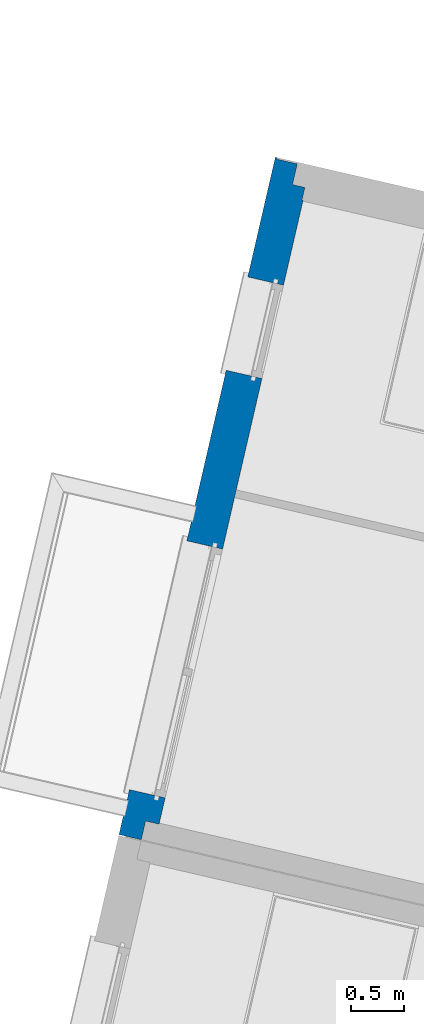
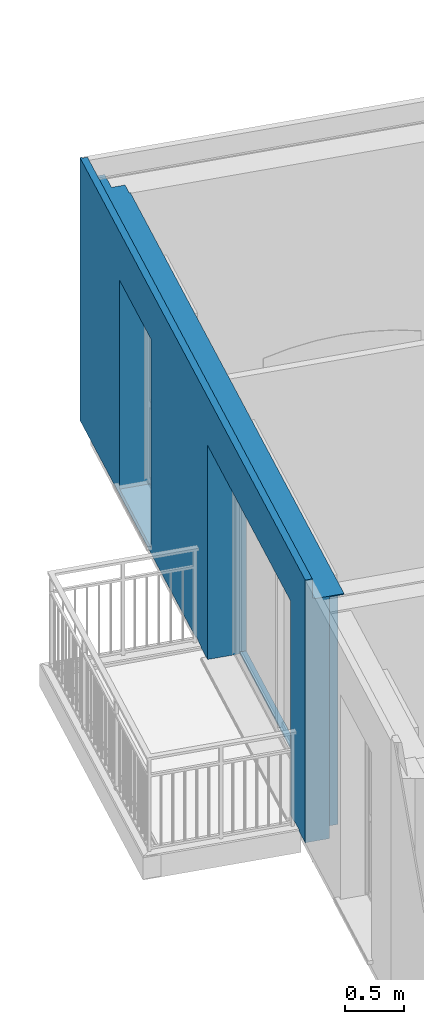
# One storey, part 13 of 62: 1 wall, 2 openings.
"""IFC2X3 building model written with IfcOpenShell, lengths in metres."""

from ifc_helpers import new_model, entity, si_unit, converted_unit, derived_unit, money_unit, direction, frame, origin_with_axes, place, context, subcontext, project, spatial, faceted_brep, material, material_list, type_object, element, save


model = new_model("IFC2X3")

# Units and contexts
model_context = context("Model", 3, precision=1e-05, world=origin_with_axes(), true_north=direction((0.0, 1.0)))
body_context = subcontext(model_context, "Body", "Model", "MODEL_VIEW")
ifc_project = project(units=[si_unit("LENGTHUNIT", "METRE"), si_unit("AREAUNIT", "SQUARE_METRE"), si_unit("VOLUMEUNIT", "CUBIC_METRE"), converted_unit("PLANEANGLEUNIT", "DEGREE", entity("IfcPlaneAngleMeasure", 0.0174532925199), si_unit("PLANEANGLEUNIT", "RADIAN"), dimensions=[0, 0, 0, 0, 0, 0, 0]), si_unit("SOLIDANGLEUNIT", "STERADIAN"), money_unit("EUR"), converted_unit("TIMEUNIT", "Year", entity("IfcTimeMeasure", 31556926.0), si_unit("TIMEUNIT", "SECOND"), dimensions=[0, 0, 1, 0, 0, 0, 0]), si_unit("MASSUNIT", "GRAM", prefix="KILO"), si_unit("THERMODYNAMICTEMPERATUREUNIT", "DEGREE_CELSIUS"), si_unit("LUMINOUSINTENSITYUNIT", "LUMEN"), si_unit("ENERGYUNIT", "JOULE", prefix="MEGA"), derived_unit("THERMALCONDUCTANCEUNIT", [(si_unit("POWERUNIT", "WATT"), 1), (si_unit("LENGTHUNIT", "METRE"), -1), (si_unit("THERMODYNAMICTEMPERATUREUNIT", "KELVIN"), -1)]), derived_unit("SPECIFICHEATCAPACITYUNIT", [(si_unit("ENERGYUNIT", "JOULE"), 1), (si_unit("MASSUNIT", "GRAM", prefix="KILO"), -1), (si_unit("THERMODYNAMICTEMPERATUREUNIT", "KELVIN"), -1)]), derived_unit("MASSDENSITYUNIT", [(si_unit("MASSUNIT", "GRAM", prefix="KILO"), 1), (si_unit("VOLUMEUNIT", "CUBIC_METRE"), -1)])], contexts=[model_context])

# Site, building, storey
site_placement = place(None, origin_with_axes())
site = spatial("IfcSite", under=ifc_project, at=site_placement, Name="Site", CompositionType="ELEMENT")
building_placement = place(site_placement, origin_with_axes())
building = spatial("IfcBuilding", under=site, at=building_placement, Name="Bâtiment", CompositionType="ELEMENT")
storey_placement = place(building_placement, frame((0.0, 0.0, 8.16), z_axis=(0.0, 0.0, 1.0), x_axis=(1.0, 0.0, 0.0)))
storey = spatial("IfcBuildingStorey", under=building, at=storey_placement, Name="R+3", CompositionType="ELEMENT", Elevation=8.16)

# Wall, openings
ifc_material_1 = material(Name="Finition int - Plaque de plâtre")
ifc_material_2 = material(Name="Isolation - Polystyrène extrudé")
ifc_material_3 = material(Name="Bloc ELITHERM")
ifc_material_4 = material(Name="Mortier")
ifc_material_5 = material(Name="Béton cellulaire")
ifc_material_6 = material(Name="Finition ext - Crépis")
ifc_material_list = material_list([ifc_material_1, ifc_material_2, ifc_material_3, ifc_material_4, ifc_material_5, ifc_material_6])
wall_type = type_object("IfcWallType", Name="Mur ALKERN + planelle 21 345 x 2720", PredefinedType="USERDEFINED")
wall_placement = place(storey_placement, frame((-15.4613545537, 10.3708066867, 0.0), z_axis=(0.0, 0.0, 1.0), x_axis=(-0.224876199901, -0.974387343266, 0.0)))
wall = element("IfcWall", 1, at=wall_placement, inside=storey, type_object=wall_type, material=ifc_material_list, Name="Mue bloc ALKERN isolé", ObjectType="SOLIDWALL", context=body_context, shape_type="Brep", body=[
    faceted_brep([(6.35486443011, 0.35999998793, 0.0), (0.335000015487, 0.35999998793, 0.0), (0.335000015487, 0.359999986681, 2.51), (6.53486443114, 0.359999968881, 2.51000000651), (6.53486443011, 0.359999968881, 2.5), (6.35486443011, 0.35999998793, 2.5), (2.05561974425, 0.35999998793, 2.22), (2.05561974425, 0.359999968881, 2.4), (1.15561974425, 0.359999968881, 2.4), (1.15561974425, 0.35999998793, 2.22), (1.15561974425, 0.35999998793, 0.12), (2.05561974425, 0.35999998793, 0.12), (6.10090346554, 0.35999998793, 2.22), (6.10090346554, 0.359999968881, 2.4), (3.70090346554, 0.359999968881, 2.4), (3.70090346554, 0.35999998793, 2.22), (3.70090346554, 0.35999998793, 0.02), (6.10090346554, 0.35999998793, 0.02), (6.35486443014, 0.350000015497, 0.0), (0.335000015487, 0.350000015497, 0.0), (0.335000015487, 0.350000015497, 2.51), (6.53486443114, 0.350000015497, 2.51000000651), (6.53486443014, 0.350000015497, 2.5), (6.35486443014, 0.350000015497, 2.5), (2.05561974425, 0.350000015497, 2.22), (2.05561974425, 0.350000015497, 2.4), (2.05561974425, 0.350000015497, 0.12), (1.15561974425, 0.350000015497, 2.4), (1.15561974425, 0.350000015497, 2.22), (1.15561974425, 0.350000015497, 0.12), (6.10090346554, 0.350000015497, 2.22), (6.10090346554, 0.350000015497, 2.4), (6.10090346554, 0.350000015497, 0.02), (3.70090346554, 0.350000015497, 2.4), (3.70090346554, 0.350000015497, 2.22), (3.70090346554, 0.350000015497, 0.02)], [[[0, 1, 2, 3, 4, 5], [6, 7, 8, 9, 10, 11], [12, 13, 14, 15, 16, 17]], [[18, 19, 1, 0]], [[19, 20, 2, 1]], [[3, 2, 20, 21]], [[21, 22, 4, 3]], [[23, 5, 4, 22]], [[18, 0, 5, 23]], [[24, 25, 7, 6, 11, 26]], [[25, 27, 8, 7]], [[9, 8, 27, 28, 29, 10]], [[26, 11, 10, 29]], [[30, 31, 13, 12, 17, 32]], [[14, 13, 31, 33]], [[15, 14, 33, 34, 35, 16]], [[16, 35, 32, 17]], [[21, 20, 19, 18, 23, 22], [25, 24, 26, 29, 28, 27], [31, 30, 32, 35, 34, 33]]]),
    faceted_brep([(3.70090346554, 0.230000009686, 0.02), (3.70090346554, 0.230000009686, 0.0), (3.70090346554, 0.301, 0.0), (3.70090346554, 0.301, 0.02), (3.70090346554, 0.350000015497, 0.02), (3.70090346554, 0.350000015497, 2.22), (3.70090346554, 0.350000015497, 2.4), (3.70090346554, 0.23, 2.4), (3.70090346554, 0.23, 2.22), (6.10090346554, 0.23, 2.4), (6.10090346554, 0.23, 2.22), (6.10090346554, 0.230000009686, 0.02), (6.10090346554, 0.230000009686, 0.0), (6.35486443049, 0.230000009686, 0.0), (6.35486443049, 0.230000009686, 2.5), (6.53486443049, 0.230000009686, 2.5), (6.53486443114, 0.230000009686, 2.51000000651), (0.214999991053, 0.230000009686, 2.50999999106), (0.214999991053, 0.230000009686, 0.0), (2.05561974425, 0.23, 2.4), (2.05561974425, 0.23, 2.22), (2.05561974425, 0.230000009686, 0.12), (2.05561974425, 0.230000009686, 0.06), (1.15561974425, 0.230000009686, 0.06), (1.15561974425, 0.230000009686, 0.12), (1.15561974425, 0.23, 2.22), (1.15561974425, 0.23, 2.4), (0.214999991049, 0.350000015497, 0.0), (6.35486443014, 0.350000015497, 0.0), (6.10090346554, 0.301, 0.0), (6.10090346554, 0.301, 0.02), (6.10090346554, 0.350000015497, 0.02), (0.214999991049, 0.350000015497, 2.50999999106), (6.53486443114, 0.350000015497, 2.51000000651), (6.53486443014, 0.350000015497, 2.5), (6.35486443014, 0.350000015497, 2.5), (1.15561974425, 0.350000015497, 2.22), (1.15561974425, 0.350000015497, 0.12), (2.05561974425, 0.350000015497, 0.12), (2.05561974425, 0.350000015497, 2.22), (2.05561974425, 0.350000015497, 2.4), (1.15561974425, 0.350000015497, 2.4), (6.10090346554, 0.350000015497, 2.22), (6.10090346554, 0.350000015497, 2.4), (2.05561974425, 0.301, 0.12), (2.05561974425, 0.301, 0.06), (1.15561974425, 0.301, 0.06), (1.15561974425, 0.301, 0.12)], [[[0, 1, 2, 3, 4, 5, 6, 7, 8]], [[1, 0, 8, 7, 9, 10, 11, 12, 13, 14, 15, 16, 17, 18], [19, 20, 21, 22, 23, 24, 25, 26]], [[2, 1, 18, 27, 28, 13, 12, 29]], [[30, 3, 2, 29]], [[3, 30, 31, 4]], [[28, 27, 32, 33, 34, 35], [36, 37, 38, 39, 40, 41], [5, 4, 31, 42, 43, 6]], [[43, 9, 7, 6]], [[30, 29, 12, 11, 10, 9, 43, 42, 31]], [[13, 28, 35, 14]], [[14, 35, 34, 15]], [[16, 15, 34, 33]], [[33, 32, 17, 16]], [[18, 17, 32, 27]], [[40, 39, 38, 44, 45, 22, 21, 20, 19]], [[23, 22, 45, 46]], [[41, 26, 25, 24, 23, 46, 47, 37, 36]], [[40, 19, 26, 41]], [[47, 44, 38, 37]], [[44, 47, 46, 45]]]),
    faceted_brep([(3.70090346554, 0.229999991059, 0.02), (3.70090346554, 0.229999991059, 0.0), (0.0149999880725, 0.229999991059, 0.0), (0.0149999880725, 0.229999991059, 2.50999999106), (6.53486443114, 0.229999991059, 2.51000000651), (6.53486443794, 0.229999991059, 2.5), (6.53486443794, 0.229999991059, 0.0), (6.10090346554, 0.229999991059, 0.0), (6.10090346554, 0.229999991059, 0.02), (6.10090346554, 0.229999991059, 2.22), (3.70090346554, 0.229999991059, 2.22), (2.05561974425, 0.229999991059, 0.06), (2.05561974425, 0.229999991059, 0.12), (2.05561974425, 0.229999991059, 2.22), (1.15561974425, 0.229999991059, 2.22), (1.15561974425, 0.229999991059, 0.12), (1.15561974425, 0.229999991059, 0.06), (3.70090346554, 0.03, 0.02), (3.70090346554, 0.03, 0.0), (0.0149999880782, 0.03, 0.0), (0.0149999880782, 0.03, 2.50999999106), (0.0149999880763, 0.0979999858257, 2.50999999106), (6.53486443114, 0.0979999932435, 2.51000000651), (6.53486443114, 0.03, 2.50999999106), (6.53486443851, 0.03, 2.5), (6.53486443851, 0.03, 0.0), (6.10090346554, 0.03, 0.0), (6.10090346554, 0.03, 0.02), (6.10090346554, 0.03, 2.22), (3.70090346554, 0.03, 2.22), (2.05561974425, 0.03, 0.06), (2.05561974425, 0.03, 0.12), (2.05561974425, 0.03, 2.22), (1.15561974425, 0.03, 2.22), (1.15561974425, 0.03, 0.12), (1.15561974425, 0.03, 0.06)], [[[0, 1, 2, 3, 4, 5, 6, 7, 8, 9, 10], [11, 12, 13, 14, 15, 16]], [[1, 0, 17, 18]], [[1, 18, 19, 2]], [[19, 20, 21, 3, 2]], [[3, 21, 22, 4]], [[4, 22, 23, 24, 5]], [[25, 6, 5, 24]], [[26, 7, 6, 25]], [[27, 8, 7, 26]], [[8, 27, 28, 9]], [[9, 28, 29, 10]], [[17, 0, 10, 29]], [[11, 30, 31, 12]], [[32, 13, 12, 31]], [[33, 14, 13, 32]], [[14, 33, 34, 15]], [[34, 35, 16, 15]], [[35, 30, 11, 16]], [[18, 17, 29, 28, 27, 26, 25, 24, 23, 20, 19], [35, 34, 33, 32, 31, 30]], [[21, 20, 23, 22]]]),
    faceted_brep([(0.0149999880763, 0.0979999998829, 2.50999999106), (0.0149999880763, 0.0979999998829, 2.51999999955), (6.53486443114, 0.0979999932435, 2.51999998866), (6.53486443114, 0.0979999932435, 2.51000000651), (0.0149999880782, 0.03, 2.51999999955), (0.0149999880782, 0.03, 2.50999999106), (6.53486443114, 0.03, 2.52), (6.53486443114, 0.03, 2.51)], [[[0, 1, 2, 3]], [[4, 1, 0, 5]], [[1, 4, 6, 2]], [[7, 3, 2, 6]], [[5, 0, 3, 7]], [[4, 5, 7, 6]]]),
    faceted_brep([(0.0149999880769, 0.0779999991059, 2.51999999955), (0.0149999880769, 0.0779999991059, 2.72), (6.53486443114, 0.0779999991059, 2.72000000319), (6.53486443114, 0.0779999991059, 2.51999999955), (0.0149999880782, 0.03, 2.72), (0.0149999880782, 0.03, 2.51999999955), (6.53486443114, 0.03, 2.71999999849), (6.53486443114, 0.03, 2.51999999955)], [[[0, 1, 2, 3]], [[4, 1, 0, 5]], [[1, 4, 6, 2]], [[7, 3, 2, 6]], [[5, 0, 3, 7]], [[4, 5, 7, 6]]]),
    faceted_brep([(3.70090346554, 0.0299999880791, 0.02), (3.70090346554, 0.0300000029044, 0.0), (3.51872899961, 0.0300000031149, 0.0), (3.50874847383, 0.0300000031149, 0.0106237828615), (3.3687095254, 0.0300000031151, 0.0193762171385), (3.35872899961, 0.0300000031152, 0.01), (3.35872899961, 0.0300000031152, 0.0), (1.19200898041e-08, 0.0299999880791, 0.0), (1.19200898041e-08, 0.0299999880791, 2.72), (6.53486443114, 0.0299999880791, 2.71999999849), (6.53486443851, 0.0299999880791, 2.5), (6.53486443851, 0.0299999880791, 0.0), (6.35872899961, 0.030000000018, 0.0), (6.35872899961, 0.030000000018, 0.01), (6.34874847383, 0.030000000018, 0.0193762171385), (6.2087095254, 0.0300000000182, 0.0106237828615), (6.19872899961, 0.0300000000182, 0.0), (6.10090346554, 0.0300000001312, 0.0), (6.10090346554, 0.0299999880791, 0.02), (6.10090346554, 0.0299999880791, 2.22), (3.70090346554, 0.0299999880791, 2.22), (2.05561974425, 0.0299999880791, 0.06), (2.05561974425, 0.030000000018, 0.12), (2.05561974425, 0.030000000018, 2.22), (1.15561974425, 0.030000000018, 2.22), (1.15561974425, 0.030000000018, 0.12), (1.15561974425, 0.0299999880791, 0.06), (3.70090346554, 0.0150000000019, 0.02), (3.70090346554, 0.015, 0.0), (3.51872899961, 0.015, 0.0), (3.50874847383, 0.0150000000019, 0.0106237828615), (3.3687095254, 0.0150000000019, 0.0193762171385), (3.35872899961, 0.0150000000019, 0.01), (3.35872899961, 0.015, 0.0), (1.19205143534e-08, 0.015, 0.0), (1.19205161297e-08, 0.0150000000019, 2.72), (6.53486443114, 0.0150000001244, 2.71999999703), (6.53486443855, 0.0150000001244, 2.5), (6.53486443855, 0.015, 0.0), (6.35872899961, 0.015, 0.0), (6.35872899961, 0.0150000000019, 0.01), (6.34874847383, 0.0150000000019, 0.0193762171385), (6.2087095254, 0.0150000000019, 0.0106237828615), (6.19872899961, 0.015, 0.0), (6.10090346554, 0.015, 0.0), (6.10090346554, 0.0150000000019, 0.02), (6.10090346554, 0.0150000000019, 2.22), (3.70090346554, 0.0150000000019, 2.22), (2.05561974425, 0.015, 0.06), (2.05561974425, 0.0150000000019, 0.12), (2.05561974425, 0.0150000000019, 2.22), (1.15561974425, 0.0150000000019, 2.22), (1.15561974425, 0.0150000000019, 0.12), (1.15561974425, 0.015, 0.06)], [[[0, 1, 2, 3, 4, 5, 6, 7, 8, 9, 10, 11, 12, 13, 14, 15, 16, 17, 18, 19, 20], [21, 22, 23, 24, 25, 26]], [[1, 0, 27, 28]], [[1, 28, 29, 2]], [[30, 3, 2, 29]], [[31, 4, 3, 30]], [[32, 5, 4, 31]], [[33, 6, 5, 32]], [[7, 6, 33, 34]], [[7, 34, 35, 8]], [[36, 9, 8, 35]], [[9, 36, 37, 10]], [[37, 38, 11, 10]], [[38, 39, 12, 11]], [[40, 13, 12, 39]], [[41, 14, 13, 40]], [[42, 15, 14, 41]], [[42, 43, 16, 15]], [[44, 17, 16, 43]], [[45, 18, 17, 44]], [[18, 45, 46, 19]], [[19, 46, 47, 20]], [[27, 0, 20, 47]], [[21, 48, 49, 22]], [[50, 23, 22, 49]], [[51, 24, 23, 50]], [[24, 51, 52, 25]], [[52, 53, 26, 25]], [[53, 48, 21, 26]], [[28, 27, 47, 46, 45, 44, 43, 42, 41, 40, 39, 38, 37, 36, 35, 34, 33, 32, 31, 30, 29], [53, 52, 51, 50, 49, 48]]]),
])
opening_1_placement = place(wall_placement, frame((1.60561974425, 0.0, 0.12), z_axis=(0.0, 0.0, 1.0), x_axis=(1.0, 0.0, 0.0)))
element("IfcOpeningElement", 2, at=opening_1_placement, cuts=wall, Name="MEN 106", context=body_context, shape_type="Brep", body=[
    faceted_brep([(-0.45, 0.84999998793, 0.0), (0.45, 0.84999998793, 0.0), (0.45, 0.26, 0.0), (-0.45, 0.26, 0.0), (-0.45, 0.84999998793, 2.1), (0.45, 0.84999998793, 2.1), (0.45, 0.26, 2.1), (-0.45, 0.26, 2.1)], [[[0, 1, 2, 3]], [[0, 4, 5, 1]], [[1, 5, 6, 2]], [[3, 2, 6, 7]], [[4, 0, 3, 7]], [[5, 4, 7, 6]]]),
    faceted_brep([(-0.45, -0.32999998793, 0.0), (-0.45, -0.32999998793, 2.1), (-0.45, 0.26, 2.1), (-0.45, 0.26, 0.0), (0.45, -0.32999998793, 0.0), (0.45, -0.32999998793, 2.1), (0.45, 0.26, 2.1), (0.45, 0.26, 0.0)], [[[0, 1, 2, 3]], [[0, 4, 5, 1]], [[1, 5, 6, 2]], [[3, 2, 6, 7]], [[4, 0, 3, 7]], [[5, 4, 7, 6]]]),
    faceted_brep([(-0.45, -0.32999998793, 0.0), (-0.45, -0.32999998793, 2.1), (-0.45, 0.26, 2.1), (-0.45, 0.26, 0.0), (0.45, -0.32999998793, 0.0), (0.45, -0.32999998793, 2.1), (0.45, 0.26, 2.1), (0.45, 0.26, 0.0)], [[[0, 1, 2, 3]], [[0, 4, 5, 1]], [[1, 5, 6, 2]], [[3, 2, 6, 7]], [[4, 0, 3, 7]], [[5, 4, 7, 6]]]),
    faceted_brep([(-0.45, 0.81999998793, 2.1), (0.45, 0.81999998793, 2.1), (0.45, 0.23, 2.1), (-0.45, 0.23, 2.1), (-0.45, 0.81999998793, 2.28), (0.45, 0.81999998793, 2.28), (0.45, 0.23, 2.28), (-0.45, 0.23, 2.28)], [[[0, 1, 2, 3]], [[0, 4, 5, 1]], [[1, 5, 6, 2]], [[3, 2, 6, 7]], [[4, 0, 3, 7]], [[5, 4, 7, 6]]]),
    faceted_brep([(-0.45, -0.28899998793, 0.0), (0.45, -0.28899998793, 0.0), (0.45, 0.301, 0.0), (-0.45, 0.301, 0.0), (-0.45, -0.28899998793, -0.06), (0.45, -0.28899998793, -0.06), (0.45, 0.301, -0.06), (-0.45, 0.301, -0.06)], [[[0, 1, 2, 3]], [[0, 4, 5, 1]], [[1, 5, 6, 2]], [[3, 2, 6, 7]], [[4, 0, 3, 7]], [[5, 4, 7, 6]]]),
])
opening_2_placement = place(wall_placement, frame((4.90090346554, 0.0, 0.02), z_axis=(0.0, 0.0, 1.0), x_axis=(1.0, 0.0, 0.0)))
element("IfcOpeningElement", 3, at=opening_2_placement, cuts=wall, Name="MEN 107", context=body_context, shape_type="Brep", body=[
    faceted_brep([(-1.2, 0.84999998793, 0.0), (1.2, 0.84999998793, 0.0), (1.2, 0.26, 0.0), (-1.2, 0.26, 0.0), (-1.2, 0.84999998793, 2.2), (1.2, 0.84999998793, 2.2), (1.2, 0.26, 2.2), (-1.2, 0.26, 2.2)], [[[0, 1, 2, 3]], [[0, 4, 5, 1]], [[1, 5, 6, 2]], [[3, 2, 6, 7]], [[4, 0, 3, 7]], [[5, 4, 7, 6]]]),
    faceted_brep([(-1.2, -0.32999998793, 0.0), (-1.2, -0.32999998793, 2.2), (-1.2, 0.26, 2.2), (-1.2, 0.26, 0.0), (1.2, -0.32999998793, 0.0), (1.2, -0.32999998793, 2.2), (1.2, 0.26, 2.2), (1.2, 0.26, 0.0)], [[[0, 1, 2, 3]], [[0, 4, 5, 1]], [[1, 5, 6, 2]], [[3, 2, 6, 7]], [[4, 0, 3, 7]], [[5, 4, 7, 6]]]),
    faceted_brep([(-1.2, -0.32999998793, 0.0), (-1.2, -0.32999998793, 2.2), (-1.2, 0.26, 2.2), (-1.2, 0.26, 0.0), (1.2, -0.32999998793, 0.0), (1.2, -0.32999998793, 2.2), (1.2, 0.26, 2.2), (1.2, 0.26, 0.0)], [[[0, 1, 2, 3]], [[0, 4, 5, 1]], [[1, 5, 6, 2]], [[3, 2, 6, 7]], [[4, 0, 3, 7]], [[5, 4, 7, 6]]]),
    faceted_brep([(-1.2, 0.81999998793, 2.2), (1.2, 0.81999998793, 2.2), (1.2, 0.23, 2.2), (-1.2, 0.23, 2.2), (-1.2, 0.81999998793, 2.38), (1.2, 0.81999998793, 2.38), (1.2, 0.23, 2.38), (-1.2, 0.23, 2.38)], [[[0, 1, 2, 3]], [[0, 4, 5, 1]], [[1, 5, 6, 2]], [[3, 2, 6, 7]], [[4, 0, 3, 7]], [[5, 4, 7, 6]]]),
    faceted_brep([(-1.2, -0.28899998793, 0.0), (1.2, -0.28899998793, 0.0), (1.2, 0.301, 0.0), (-1.2, 0.301, 0.0), (-1.2, -0.28899998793, -0.06), (1.2, -0.28899998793, -0.06), (1.2, 0.301, -0.06), (-1.2, 0.301, -0.06)], [[[0, 1, 2, 3]], [[0, 4, 5, 1]], [[1, 5, 6, 2]], [[3, 2, 6, 7]], [[4, 0, 3, 7]], [[5, 4, 7, 6]]]),
])

save(model, "model.ifc")
